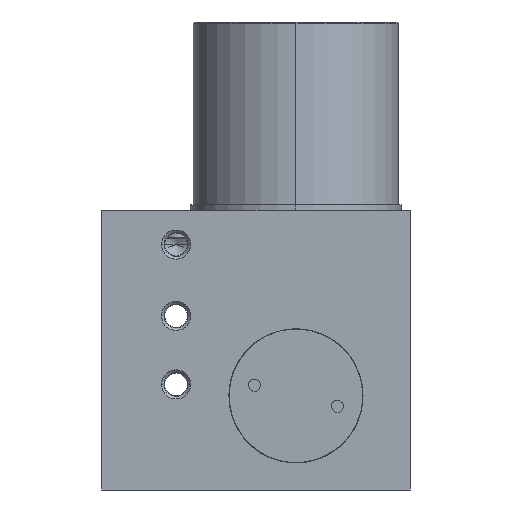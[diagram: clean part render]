
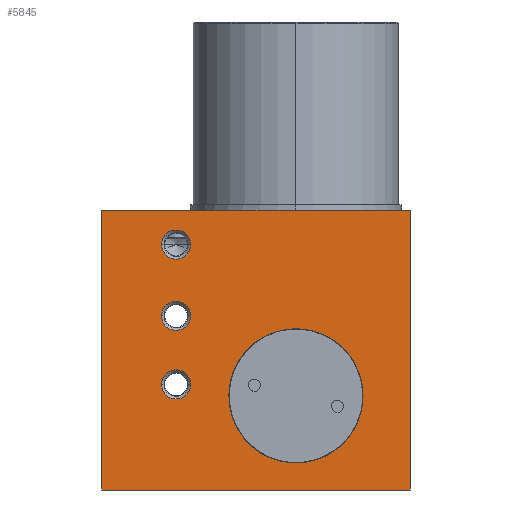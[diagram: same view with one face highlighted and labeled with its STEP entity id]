
A CAD part, left-side view. The second image highlights one B-rep face of the part: STEP entity #5845.
In plain terms, the highlighted planar face has unit normal (-1, 0, 0).
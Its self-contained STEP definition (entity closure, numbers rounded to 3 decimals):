
#115=DIRECTION('',(0.,0.,-1.));
#116=VECTOR('',#115,49.);
#117=CARTESIAN_POINT('',(-68.,0.,24.5));
#118=LINE('',#117,#116);
#191=DIRECTION('',(0.,1.,0.));
#192=VECTOR('',#191,54.);
#193=CARTESIAN_POINT('',(-68.,-54.,-24.5));
#194=LINE('',#193,#192);
#195=CARTESIAN_POINT('',(-68.,-34.,-8.));
#196=DIRECTION('',(1.,0.,0.));
#197=DIRECTION('',(0.,1.,0.));
#198=AXIS2_PLACEMENT_3D('',#195,#196,#197);
#200=CARTESIAN_POINT('',(-68.,-34.,-8.));
#201=DIRECTION('',(1.,0.,0.));
#202=DIRECTION('',(0.,-1.,0.));
#203=AXIS2_PLACEMENT_3D('',#200,#201,#202);
#205=CARTESIAN_POINT('',(-68.,-13.,-6.));
#206=DIRECTION('',(1.,0.,0.));
#207=DIRECTION('',(0.,-1.,0.));
#208=AXIS2_PLACEMENT_3D('',#205,#206,#207);
#210=CARTESIAN_POINT('',(-68.,-13.,-6.));
#211=DIRECTION('',(1.,0.,0.));
#212=DIRECTION('',(0.,1.,0.));
#213=AXIS2_PLACEMENT_3D('',#210,#211,#212);
#215=CARTESIAN_POINT('',(-68.,-13.,6.));
#216=DIRECTION('',(1.,0.,0.));
#217=DIRECTION('',(0.,-1.,0.));
#218=AXIS2_PLACEMENT_3D('',#215,#216,#217);
#220=CARTESIAN_POINT('',(-68.,-13.,6.));
#221=DIRECTION('',(1.,0.,0.));
#222=DIRECTION('',(0.,1.,0.));
#223=AXIS2_PLACEMENT_3D('',#220,#221,#222);
#225=CARTESIAN_POINT('',(-68.,-13.,18.5));
#226=DIRECTION('',(1.,0.,0.));
#227=DIRECTION('',(0.,-1.,0.));
#228=AXIS2_PLACEMENT_3D('',#225,#226,#227);
#230=CARTESIAN_POINT('',(-68.,-13.,18.5));
#231=DIRECTION('',(1.,0.,0.));
#232=DIRECTION('',(0.,1.,0.));
#233=AXIS2_PLACEMENT_3D('',#230,#231,#232);
#243=DIRECTION('',(0.,1.,0.));
#244=VECTOR('',#243,54.);
#245=CARTESIAN_POINT('',(-68.,-54.,24.5));
#246=LINE('',#245,#244);
#409=DIRECTION('',(0.,0.,-1.));
#410=VECTOR('',#409,49.);
#411=CARTESIAN_POINT('',(-68.,-54.,24.5));
#412=LINE('',#411,#410);
#4813=CARTESIAN_POINT('',(-68.,0.,24.5));
#4814=CARTESIAN_POINT('',(-68.,0.,-24.5));
#4815=VERTEX_POINT('',#4813);
#4816=VERTEX_POINT('',#4814);
#4821=CARTESIAN_POINT('',(-68.,-54.,24.5));
#4822=CARTESIAN_POINT('',(-68.,-54.,-24.5));
#4823=VERTEX_POINT('',#4821);
#4824=VERTEX_POINT('',#4822);
#4993=CARTESIAN_POINT('',(-68.,-22.25,-8.));
#4994=CARTESIAN_POINT('',(-68.,-45.75,-8.));
#4995=VERTEX_POINT('',#4993);
#4996=VERTEX_POINT('',#4994);
#5223=CARTESIAN_POINT('',(-68.,-15.55,-6.));
#5224=VERTEX_POINT('',#5223);
#5227=CARTESIAN_POINT('',(-68.,-10.45,-6.));
#5228=VERTEX_POINT('',#5227);
#5239=CARTESIAN_POINT('',(-68.,-15.55,6.));
#5240=VERTEX_POINT('',#5239);
#5243=CARTESIAN_POINT('',(-68.,-10.45,6.));
#5244=VERTEX_POINT('',#5243);
#5289=CARTESIAN_POINT('',(-68.,-15.55,18.5));
#5290=VERTEX_POINT('',#5289);
#5293=CARTESIAN_POINT('',(-68.,-10.45,18.5));
#5294=VERTEX_POINT('',#5293);
#5807=CARTESIAN_POINT('',(-68.,0.,-24.5));
#5808=DIRECTION('',(-1.,0.,0.));
#5809=DIRECTION('',(0.,0.,1.));
#5810=AXIS2_PLACEMENT_3D('',#5807,#5808,#5809);
#5811=PLANE('',#5810);
#5812=ORIENTED_EDGE('',*,*,#5761,.F.);
#5814=ORIENTED_EDGE('',*,*,#5813,.F.);
#5816=ORIENTED_EDGE('',*,*,#5815,.T.);
#5818=ORIENTED_EDGE('',*,*,#5817,.T.);
#5819=EDGE_LOOP('',(#5812,#5814,#5816,#5818));
#5820=FACE_OUTER_BOUND('',#5819,.F.);
#5822=ORIENTED_EDGE('',*,*,#5821,.F.);
#5824=ORIENTED_EDGE('',*,*,#5823,.F.);
#5825=EDGE_LOOP('',(#5822,#5824));
#5826=FACE_BOUND('',#5825,.F.);
#5828=ORIENTED_EDGE('',*,*,#5827,.F.);
#5830=ORIENTED_EDGE('',*,*,#5829,.F.);
#5831=EDGE_LOOP('',(#5828,#5830));
#5832=FACE_BOUND('',#5831,.F.);
#5834=ORIENTED_EDGE('',*,*,#5833,.F.);
#5836=ORIENTED_EDGE('',*,*,#5835,.F.);
#5837=EDGE_LOOP('',(#5834,#5836));
#5838=FACE_BOUND('',#5837,.F.);
#5840=ORIENTED_EDGE('',*,*,#5839,.F.);
#5842=ORIENTED_EDGE('',*,*,#5841,.F.);
#5843=EDGE_LOOP('',(#5840,#5842));
#5844=FACE_BOUND('',#5843,.F.);
#199=CIRCLE('',#198,11.75);
#204=CIRCLE('',#203,11.75);
#209=CIRCLE('',#208,2.55);
#214=CIRCLE('',#213,2.55);
#219=CIRCLE('',#218,2.55);
#224=CIRCLE('',#223,2.55);
#229=CIRCLE('',#228,2.55);
#234=CIRCLE('',#233,2.55);
#5761=EDGE_CURVE('',#4815,#4816,#118,.T.);
#5813=EDGE_CURVE('',#4823,#4815,#246,.T.);
#5815=EDGE_CURVE('',#4823,#4824,#412,.T.);
#5817=EDGE_CURVE('',#4824,#4816,#194,.T.);
#5821=EDGE_CURVE('',#4995,#4996,#199,.T.);
#5823=EDGE_CURVE('',#4996,#4995,#204,.T.);
#5827=EDGE_CURVE('',#5224,#5228,#209,.T.);
#5829=EDGE_CURVE('',#5228,#5224,#214,.T.);
#5833=EDGE_CURVE('',#5240,#5244,#219,.T.);
#5835=EDGE_CURVE('',#5244,#5240,#224,.T.);
#5839=EDGE_CURVE('',#5290,#5294,#229,.T.);
#5841=EDGE_CURVE('',#5294,#5290,#234,.T.);
#5845=ADVANCED_FACE('',(#5820,#5826,#5832,#5838,#5844),#5811,.T.);
